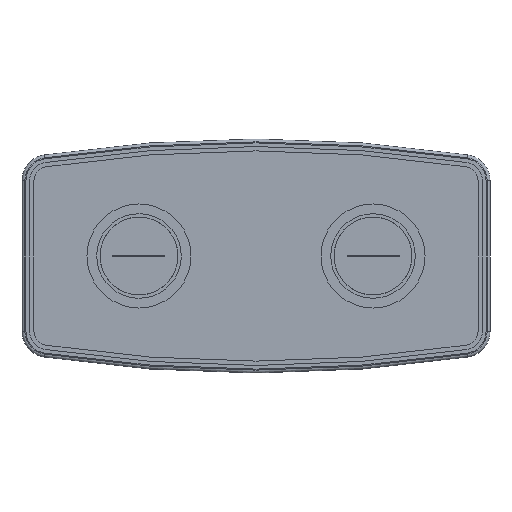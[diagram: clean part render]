
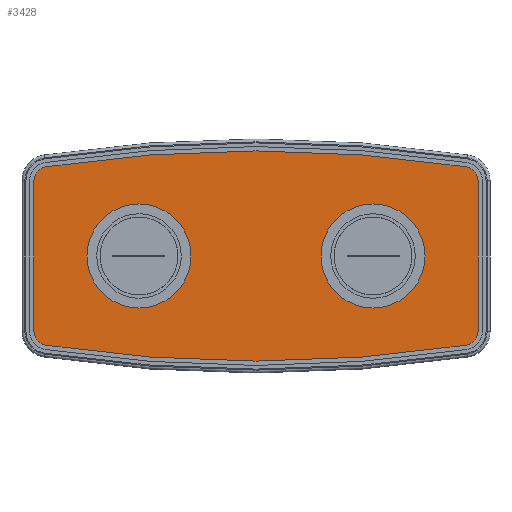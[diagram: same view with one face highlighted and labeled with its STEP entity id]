
A CAD part, front view. The second image highlights one B-rep face of the part: STEP entity #3428.
In plain terms, the highlighted planar face has unit normal (0, -1, 0).
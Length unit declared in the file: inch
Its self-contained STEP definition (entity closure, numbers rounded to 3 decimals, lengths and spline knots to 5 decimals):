
#653=PLANE('',#3950);
#755=FACE_OUTER_BOUND('',#929,.T.);
#929=EDGE_LOOP('',(#2413,#2414,#2415,#2416,#2417,#2418,#2419,#2420));
#1118=LINE('',#5801,#1356);
#1124=LINE('',#5824,#1362);
#1356=VECTOR('',#4492,0.3937);
#1362=VECTOR('',#4518,0.3937);
#1590=CIRCLE('',#3930,4.25);
#1592=CIRCLE('',#3933,324.5);
#1594=CIRCLE('',#3936,4.25);
#1596=CIRCLE('',#3940,4.25);
#1598=CIRCLE('',#3943,324.5);
#1600=CIRCLE('',#3946,4.25);
#1739=VERTEX_POINT('',#5779);
#1740=VERTEX_POINT('',#5780);
#1743=VERTEX_POINT('',#5788);
#1745=VERTEX_POINT('',#5794);
#1747=VERTEX_POINT('',#5800);
#1749=VERTEX_POINT('',#5806);
#1751=VERTEX_POINT('',#5812);
#1753=VERTEX_POINT('',#5818);
#1986=EDGE_CURVE('',#1739,#1740,#1590,.T.);
#1990=EDGE_CURVE('',#1743,#1739,#1592,.T.);
#1993=EDGE_CURVE('',#1745,#1743,#1594,.T.);
#1996=EDGE_CURVE('',#1747,#1745,#1118,.T.);
#1999=EDGE_CURVE('',#1749,#1747,#1596,.T.);
#2002=EDGE_CURVE('',#1751,#1749,#1598,.T.);
#2005=EDGE_CURVE('',#1753,#1751,#1600,.T.);
#2008=EDGE_CURVE('',#1740,#1753,#1124,.T.);
#2413=ORIENTED_EDGE('',*,*,#2008,.F.);
#2414=ORIENTED_EDGE('',*,*,#1986,.F.);
#2415=ORIENTED_EDGE('',*,*,#1990,.F.);
#2416=ORIENTED_EDGE('',*,*,#1993,.F.);
#2417=ORIENTED_EDGE('',*,*,#1996,.F.);
#2418=ORIENTED_EDGE('',*,*,#1999,.F.);
#2419=ORIENTED_EDGE('',*,*,#2002,.F.);
#2420=ORIENTED_EDGE('',*,*,#2005,.F.);
#3428=ADVANCED_FACE('',(#755),#653,.F.);
#3930=AXIS2_PLACEMENT_3D('',#5781,#4470,#4471);
#3933=AXIS2_PLACEMENT_3D('',#5789,#4478,#4479);
#3936=AXIS2_PLACEMENT_3D('',#5795,#4485,#4486);
#3940=AXIS2_PLACEMENT_3D('',#5807,#4497,#4498);
#3943=AXIS2_PLACEMENT_3D('',#5813,#4504,#4505);
#3946=AXIS2_PLACEMENT_3D('',#5819,#4511,#4512);
#3950=AXIS2_PLACEMENT_3D('',#5827,#4522,#4523);
#4470=DIRECTION('center_axis',(0.,1.,0.));
#4471=DIRECTION('ref_axis',(-0.15,0.,-0.989));
#4478=DIRECTION('center_axis',(0.,1.,0.));
#4479=DIRECTION('ref_axis',(0.15,0.,-0.989));
#4485=DIRECTION('center_axis',(0.,1.,0.));
#4486=DIRECTION('ref_axis',(1.,0.,0.));
#4492=DIRECTION('',(0.,0.,-1.));
#4497=DIRECTION('center_axis',(0.,1.,0.));
#4498=DIRECTION('ref_axis',(0.15,0.,0.989));
#4504=DIRECTION('center_axis',(0.,1.,0.));
#4505=DIRECTION('ref_axis',(-0.15,0.,0.989));
#4511=DIRECTION('center_axis',(0.,1.,0.));
#4512=DIRECTION('ref_axis',(-1.,0.,0.));
#4518=DIRECTION('',(0.,0.,1.));
#4522=DIRECTION('center_axis',(0.,1.,0.));
#4523=DIRECTION('ref_axis',(0.,0.,1.));
#5779=CARTESIAN_POINT('',(-48.637,0.,-48.58437));
#5780=CARTESIAN_POINT('',(-52.25,0.,-44.38238));
#5781=CARTESIAN_POINT('Origin',(-48.,0.,-44.38238));
#5788=CARTESIAN_POINT('',(48.637,0.,-48.58437));
#5789=CARTESIAN_POINT('Origin',(0.,0.,272.25));
#5794=CARTESIAN_POINT('',(52.25,0.,-44.38238));
#5795=CARTESIAN_POINT('Origin',(48.,0.,-44.38238));
#5800=CARTESIAN_POINT('',(52.25,0.,-9.61762));
#5801=CARTESIAN_POINT('',(52.25,0.,-9.61762));
#5806=CARTESIAN_POINT('',(48.637,0.,-5.41563));
#5807=CARTESIAN_POINT('Origin',(48.,0.,-9.61762));
#5812=CARTESIAN_POINT('',(-48.637,0.,-5.41563));
#5813=CARTESIAN_POINT('Origin',(0.,0.,-326.25));
#5818=CARTESIAN_POINT('',(-52.25,0.,-9.61762));
#5819=CARTESIAN_POINT('Origin',(-48.,0.,-9.61762));
#5824=CARTESIAN_POINT('',(-52.25,0.,-44.38238));
#5827=CARTESIAN_POINT('Origin',(0.,0.,-27.));
